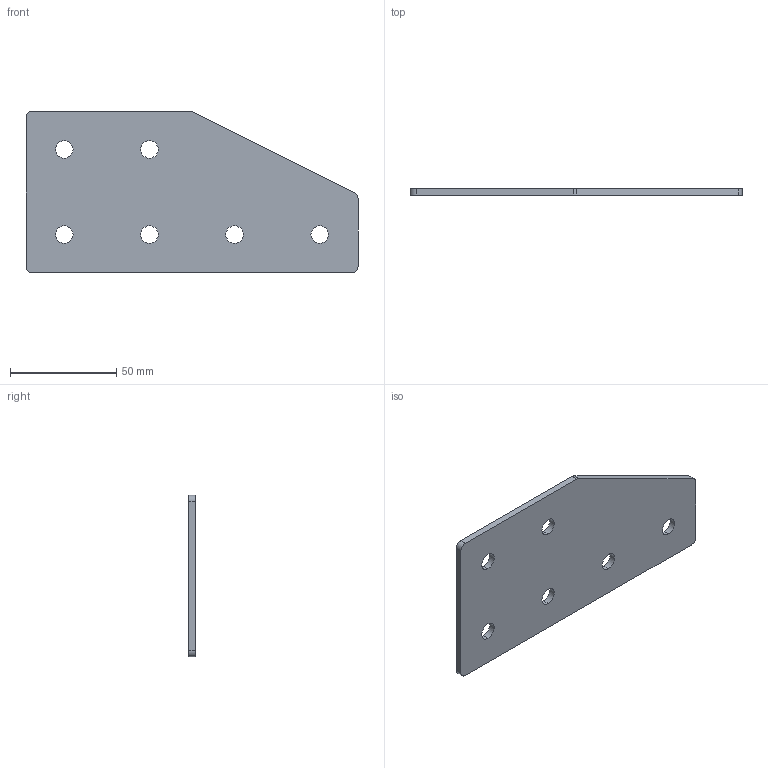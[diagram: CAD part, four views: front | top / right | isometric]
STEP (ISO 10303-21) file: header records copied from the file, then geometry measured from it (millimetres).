
FILE_DESCRIPTION (( 'STEP AP203' ), '1' );
FILE_NAME ('ﾃ-6-ﾓ-40.STEP', '2016-07-20T13:02:35', ( '' ), ( '' ), 'SwSTEP 2.0', 'SolidWorks 2014', '' );
FILE_SCHEMA (( 'CONFIG_CONTROL_DESIGN' ));
Length unit declared in the file: millimetre
Products named in the file (1): ﾃ-6-ﾓ-40
Bounding box: 156 x 3 x 76 mm (x, y, z)
Surface area: 21739.5 mm2 (no closed solid volume)
Topology: 0 solids, 1 shells, 24 faces, 66 edges, 44 vertices
Faces by surface type: cylinder 17, plane 7
Entity records: 885 total; most frequent: DIRECTION 150, CARTESIAN_POINT 135, ORIENTED_EDGE 132, EDGE_CURVE 66, AXIS2_PLACEMENT_3D 59, VERTEX_POINT 44, EDGE_LOOP 36, CIRCLE 34
